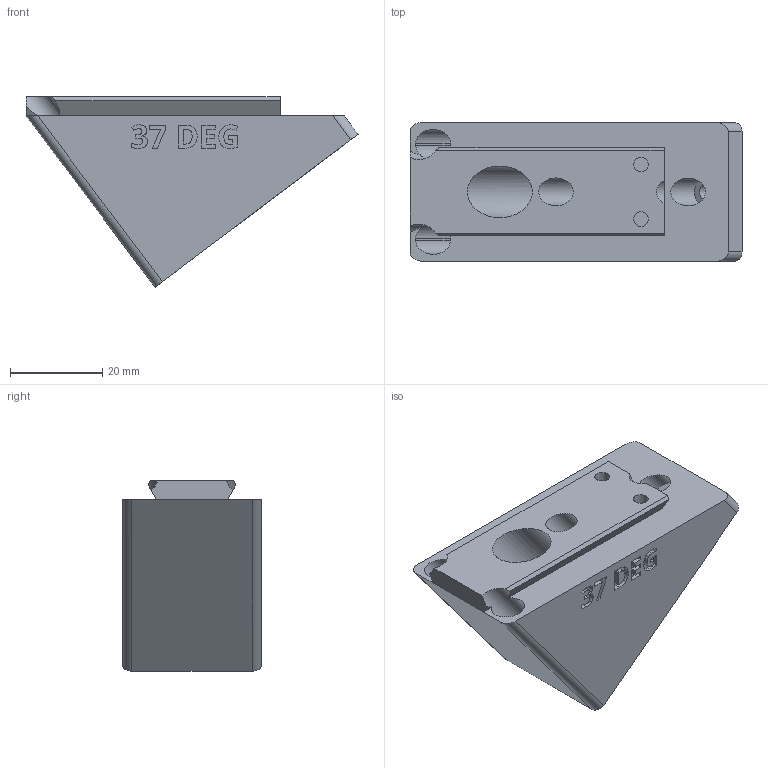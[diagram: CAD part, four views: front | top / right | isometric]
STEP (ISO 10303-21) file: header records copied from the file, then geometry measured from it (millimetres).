
FILE_DESCRIPTION(/* description */ ('STEP AP242 Edition 2','CAx-IF Rec.Pracs.---Representation and Presentation of Product Manufacturing Information (PMI)---4.0---2014-10-13','CAx-IF Rec.Pracs.---3D Tessellated Geometry---0.4---2014-09-14','2;1','CAx-IF Rec.Pracs.---User Defined Attributes---1.5---2016-08-15'),/* implementation_level */ '2;1');
FILE_NAME(/* name */ 'Camera Wedges - CAMERA MOUNTING WEDGE, POS, 37 DEG',/* time_stamp */ '2026-07-08T20:40:02Z',/* author */ (''),/* organization */ (''),/* preprocessor_version */ 'ST-DEVELOPER v20',/* originating_system */ 'ONSHAPE BY PTC INC, 1.217',/* authorisation */ ' ');
FILE_SCHEMA (('AP242_MANAGED_MODEL_BASED_3D_ENGINEERING_MIM_LF { 1 0 10303 442 3 1 4 }'));
Length unit declared in the file: metre
Products named in the file (1): CAMERA MOUNTING WEDGE, POS, 37 DEG
Bounding box: 71.88 x 30 x 41.19 mm (x, y, z)
Volume: 38250.1 mm3; surface area: 12631.5 mm2
Topology: 1 solids, 1 shells, 242 faces, 667 edges, 445 vertices
Faces by surface type: plane 135, bspline 64, cylinder 43
Full cylindrical faces by diameter (mm): 3.2 x4, 6 x2, 6.4 x1, 11.2 x1
Entity records: 7868 total; most frequent: CARTESIAN_POINT 2045, ORIENTED_EDGE 1312, DIRECTION 984, EDGE_CURVE 656, VERTEX_POINT 442, LINE 430, VECTOR 430, EDGE_LOOP 278
